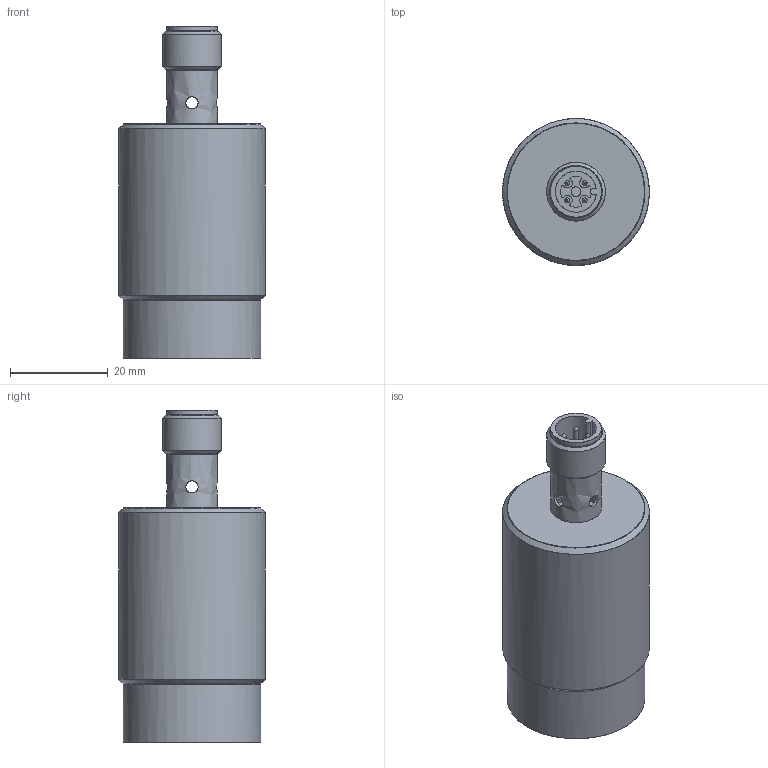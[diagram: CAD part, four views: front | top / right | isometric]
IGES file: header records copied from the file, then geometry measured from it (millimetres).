
Global section: file name: D:\dd\DSD-0303.igs; preprocessor: I-DEAS 3D IGES Translator 13; date: 20100121.105706; units: millimetre
Bounding box: 29.98 x 29.98 x 67.8 mm (x, y, z)
Surface area: 11113.4 mm2
Topology: 4 solids, 4 shells, 82 faces, 536 edges, 470 vertices
Faces by surface type: bspline 82
